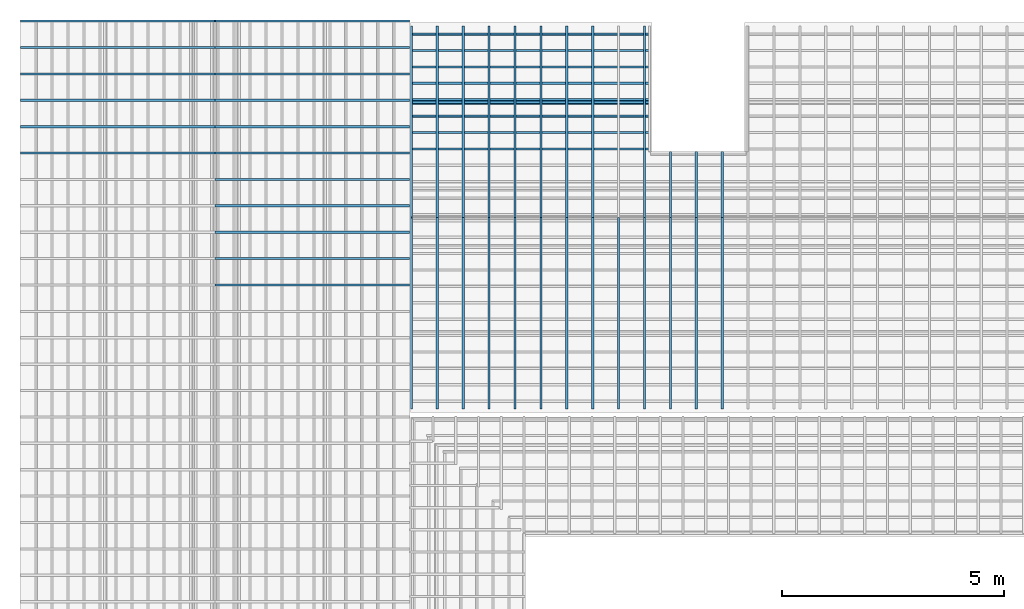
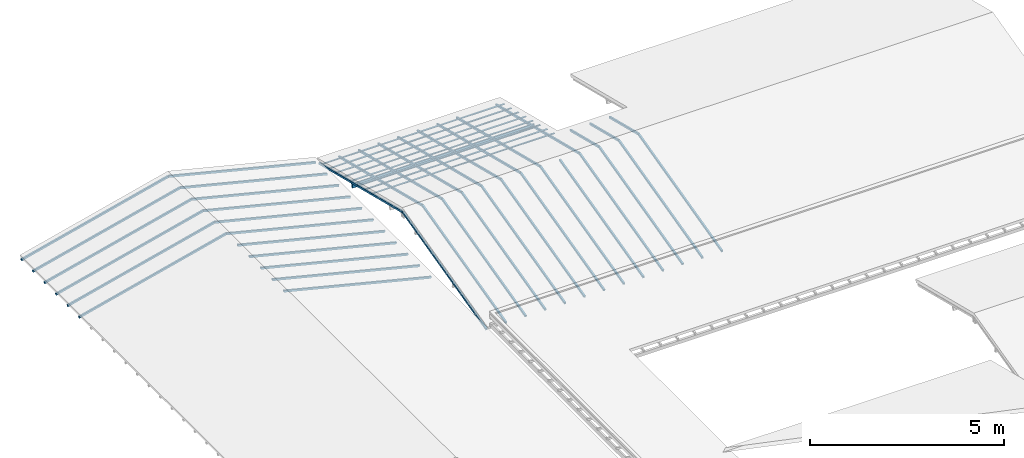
# One storey, part 5 of 10: 51 members, 4 elements without a shape of their own.
"""IFC2X3 building model written with IfcOpenShell, lengths in metres."""

from ifc_helpers import new_model, entity, si_unit, converted_unit, derived_unit, direction, frame, frame_2d, origin, origin_2d_with_axis, place, context, subcontext, project, spatial, rectangle, extrude, clip, halfspace, source, transform, mapped, material, type_object, type_shapes, element, aggregate, save


model = new_model("IFC2X3")

# Units and contexts
model_context = context("Model", 3, precision=1e-05, world=origin(), true_north=direction((6.12303176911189e-17, 1.0)))
body_context = subcontext(model_context, "Body", "Model", "MODEL_VIEW")
ifc_project = project(units=[si_unit("LENGTHUNIT", "METRE"), si_unit("AREAUNIT", "SQUARE_METRE"), si_unit("VOLUMEUNIT", "CUBIC_METRE"), converted_unit("PLANEANGLEUNIT", "DEGREE", entity("IfcRatioMeasure", 0.0174532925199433), si_unit("PLANEANGLEUNIT", "RADIAN"), dimensions=[0, 0, 0, 0, 0, 0, 0]), si_unit("MASSUNIT", "GRAM", prefix="KILO"), derived_unit("MASSDENSITYUNIT", [(si_unit("MASSUNIT", "GRAM", prefix="KILO"), 1), (si_unit("LENGTHUNIT", "METRE"), -3)]), si_unit("TIMEUNIT", "SECOND"), si_unit("FREQUENCYUNIT", "HERTZ"), si_unit("THERMODYNAMICTEMPERATUREUNIT", "DEGREE_CELSIUS"), derived_unit("THERMALTRANSMITTANCEUNIT", [(si_unit("MASSUNIT", "GRAM", prefix="KILO"), 1), (si_unit("THERMODYNAMICTEMPERATUREUNIT", "KELVIN"), -1), (si_unit("TIMEUNIT", "SECOND"), -3)]), derived_unit("VOLUMETRICFLOWRATEUNIT", [(si_unit("LENGTHUNIT", "METRE"), 3), (si_unit("TIMEUNIT", "SECOND"), -1)]), si_unit("ELECTRICCURRENTUNIT", "AMPERE"), si_unit("ELECTRICVOLTAGEUNIT", "VOLT"), si_unit("POWERUNIT", "WATT"), si_unit("FORCEUNIT", "NEWTON", prefix="KILO"), si_unit("ILLUMINANCEUNIT", "LUX"), si_unit("LUMINOUSFLUXUNIT", "LUMEN"), si_unit("LUMINOUSINTENSITYUNIT", "CANDELA"), derived_unit("USERDEFINED", [(si_unit("MASSUNIT", "GRAM", prefix="KILO"), -1), (si_unit("LENGTHUNIT", "METRE"), -2), (si_unit("TIMEUNIT", "SECOND"), 3), (si_unit("LUMINOUSFLUXUNIT", "LUMEN"), 1)]), derived_unit("LINEARVELOCITYUNIT", [(si_unit("LENGTHUNIT", "METRE"), 1), (si_unit("TIMEUNIT", "SECOND"), -1)]), si_unit("PRESSUREUNIT", "PASCAL"), derived_unit("USERDEFINED", [(si_unit("LENGTHUNIT", "METRE"), -2), (si_unit("MASSUNIT", "GRAM", prefix="KILO"), 1), (si_unit("TIMEUNIT", "SECOND"), -2)])], contexts=[model_context])

# Site, building, storey
site_placement = place(None, frame((26.9889013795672, -17.5624287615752, 0.0)))
site = spatial("IfcSite", under=ifc_project, at=site_placement, Name="Default", CompositionType="ELEMENT")
building_placement = place(site_placement, origin())
building = spatial("IfcBuilding", under=site, at=building_placement, Name="C. C. L. Monsenhor Antônio Sampaio", CompositionType="ELEMENT")
storey_placement = place(building_placement, frame((0.0, 0.0, 4.3)))
storey = spatial("IfcBuildingStorey", under=building, at=storey_placement, Name="COBERTURA BLOCO 01", CompositionType="ELEMENT", Elevation=4.3)

# Roof, members
curtain_wall_type_1 = type_object("IfcCurtainWallType", PredefinedType="NOTDEFINED")
roof_1_placement = place(storey_placement, frame((0.0, 0.0, -4.3)))
roof_1 = element("IfcRoof", 1, at=roof_1_placement, inside=storey, type_object=curtain_wall_type_1, ShapeType="NOTDEFINED")
ifc_material = material(Name=".Madeira")
member_type_1 = type_object("IfcMemberType", Name="Caibro", PredefinedType="MEMBER")
shared_shape_1 = source(origin(), body_context, "Body", "Clipping", [
    clip(extrude(rectangle(XDim=0.06, YDim=0.0499999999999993, at=origin_2d_with_axis()), frame((0.0, -0.03, -4.50666618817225), z_axis=(0.0, 0.0, 1.0), x_axis=(0.0, -1.0, 0.0)), (0.0, 0.0, 1.0), 4.52166618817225), halfspace(frame((-0.3048, 0.0, 0.0), z_axis=(0.0, 0.242535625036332, 0.970142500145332), x_axis=(0.0, 0.970142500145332, -0.242535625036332)), False)),
])
type_shapes(member_type_1, [shared_shape_1])
member_1_placement = place(storey_placement, frame((-10.2441903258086, -13.9322710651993, 1.22274577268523), z_axis=(-0.970142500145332, 0.0, 0.242535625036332), x_axis=(0.0, 1.0, 0.0)))
member_1 = element("IfcMember", 2, at=member_1_placement, type_object=member_type_1, material=ifc_material, Name="Rectangular Mullion:Caibro", ObjectType="Caibro", context=body_context, shape_type="MappedRepresentation", body=[
    mapped(shared_shape_1, transform((0.0, 0.0, 0.0), scale=1.0)),
])
member_2_placement = place(storey_placement, frame((-10.2441903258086, -13.3372331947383, 1.22274577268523), z_axis=(-0.970142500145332, 0.0, 0.242535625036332), x_axis=(0.0, 1.0, 0.0)))
member_2 = element("IfcMember", 3, at=member_2_placement, type_object=member_type_1, material=ifc_material, Name="Rectangular Mullion:Caibro", ObjectType="Caibro", context=body_context, shape_type="MappedRepresentation", body=[
    mapped(shared_shape_1, transform((0.0, 0.0, 0.0), scale=1.0)),
])
member_3_placement = place(storey_placement, frame((-10.2441903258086, -12.7421953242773, 1.22274577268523), z_axis=(-0.970142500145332, 0.0, 0.242535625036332), x_axis=(0.0, 1.0, 0.0)))
member_3 = element("IfcMember", 4, at=member_3_placement, type_object=member_type_1, material=ifc_material, Name="Rectangular Mullion:Caibro", ObjectType="Caibro", context=body_context, shape_type="MappedRepresentation", body=[
    mapped(shared_shape_1, transform((0.0, 0.0, 0.0), scale=1.0)),
])
member_4_placement = place(storey_placement, frame((-10.2441903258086, -12.1471574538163, 1.22274577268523), z_axis=(-0.970142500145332, 0.0, 0.242535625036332), x_axis=(0.0, 1.0, 0.0)))
member_4 = element("IfcMember", 5, at=member_4_placement, type_object=member_type_1, material=ifc_material, Name="Rectangular Mullion:Caibro", ObjectType="Caibro", context=body_context, shape_type="MappedRepresentation", body=[
    mapped(shared_shape_1, transform((0.0, 0.0, 0.0), scale=1.0)),
])
member_5_placement = place(storey_placement, frame((-10.2441903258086, -11.5521195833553, 1.22274577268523), z_axis=(-0.970142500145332, 0.0, 0.242535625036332), x_axis=(0.0, 1.0, 0.0)))
member_5 = element("IfcMember", 6, at=member_5_placement, type_object=member_type_1, material=ifc_material, Name="Rectangular Mullion:Caibro", ObjectType="Caibro", context=body_context, shape_type="MappedRepresentation", body=[
    mapped(shared_shape_1, transform((0.0, 0.0, 0.0), scale=1.0)),
])
member_6_placement = place(storey_placement, frame((-10.2441903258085, -10.9570817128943, 1.22274577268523), z_axis=(-0.970142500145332, 0.0, 0.242535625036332), x_axis=(0.0, 1.0, 0.0)))
member_6 = element("IfcMember", 7, at=member_6_placement, type_object=member_type_1, material=ifc_material, Name="Rectangular Mullion:Caibro", ObjectType="Caibro", context=body_context, shape_type="MappedRepresentation", body=[
    mapped(shared_shape_1, transform((0.0, 0.0, 0.0), scale=1.0)),
])
member_7_placement = place(storey_placement, frame((-10.2441903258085, -10.3620438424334, 1.22274577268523), z_axis=(-0.970142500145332, 0.0, 0.242535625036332), x_axis=(0.0, 1.0, 0.0)))
member_7 = element("IfcMember", 8, at=member_7_placement, type_object=member_type_1, material=ifc_material, Name="Rectangular Mullion:Caibro", ObjectType="Caibro", context=body_context, shape_type="MappedRepresentation", body=[
    mapped(shared_shape_1, transform((0.0, 0.0, 0.0), scale=1.0)),
])
member_8_placement = place(storey_placement, frame((-10.2441903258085, -9.76700597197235, 1.22274577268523), z_axis=(-0.970142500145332, 0.0, 0.242535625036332), x_axis=(0.0, 1.0, 0.0)))
member_8 = element("IfcMember", 9, at=member_8_placement, type_object=member_type_1, material=ifc_material, Name="Rectangular Mullion:Caibro", ObjectType="Caibro", context=body_context, shape_type="MappedRepresentation", body=[
    mapped(shared_shape_1, transform((0.0, 0.0, 0.0), scale=1.0)),
])
member_9_placement = place(storey_placement, frame((-10.2441903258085, -9.17196810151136, 1.22274577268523), z_axis=(-0.970142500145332, 0.0, 0.242535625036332), x_axis=(0.0, 1.0, 0.0)))
member_9 = element("IfcMember", 10, at=member_9_placement, type_object=member_type_1, material=ifc_material, Name="Rectangular Mullion:Caibro", ObjectType="Caibro", context=body_context, shape_type="MappedRepresentation", body=[
    mapped(shared_shape_1, transform((0.0, 0.0, 0.0), scale=1.0)),
])
member_10_placement = place(storey_placement, frame((-10.2441903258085, -8.57693023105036, 1.22274577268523), z_axis=(-0.970142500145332, 0.0, 0.242535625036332), x_axis=(0.0, 1.0, 0.0)))
member_10 = element("IfcMember", 11, at=member_10_placement, type_object=member_type_1, material=ifc_material, Name="Rectangular Mullion:Caibro", ObjectType="Caibro", context=body_context, shape_type="MappedRepresentation", body=[
    mapped(shared_shape_1, transform((0.0, 0.0, 0.0), scale=1.0)),
])
member_11_placement = place(storey_placement, frame((-10.2441903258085, -8.57693023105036, 1.22274577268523), z_axis=(0.970142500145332, 0.0, 0.242535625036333), x_axis=(0.0, -1.0, 0.0)))
member_11 = element("IfcMember", 12, at=member_11_placement, type_object=member_type_1, material=ifc_material, Name="Rectangular Mullion:Caibro", ObjectType="Caibro", context=body_context, shape_type="MappedRepresentation", body=[
    mapped(shared_shape_1, transform((0.0, 0.0, 0.0), scale=1.0)),
])
member_12_placement = place(storey_placement, frame((-10.2441903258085, -9.17196810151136, 1.22274577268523), z_axis=(0.970142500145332, 0.0, 0.242535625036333), x_axis=(0.0, -1.0, 0.0)))
member_12 = element("IfcMember", 13, at=member_12_placement, type_object=member_type_1, material=ifc_material, Name="Rectangular Mullion:Caibro", ObjectType="Caibro", context=body_context, shape_type="MappedRepresentation", body=[
    mapped(shared_shape_1, transform((0.0, 0.0, 0.0), scale=1.0)),
])
member_13_placement = place(storey_placement, frame((-10.2441903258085, -9.76700597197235, 1.22274577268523), z_axis=(0.970142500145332, 0.0, 0.242535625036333), x_axis=(0.0, -1.0, 0.0)))
member_13 = element("IfcMember", 14, at=member_13_placement, type_object=member_type_1, material=ifc_material, Name="Rectangular Mullion:Caibro", ObjectType="Caibro", context=body_context, shape_type="MappedRepresentation", body=[
    mapped(shared_shape_1, transform((0.0, 0.0, 0.0), scale=1.0)),
])
member_14_placement = place(storey_placement, frame((-10.2441903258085, -10.3620438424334, 1.22274577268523), z_axis=(0.970142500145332, 0.0, 0.242535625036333), x_axis=(0.0, -1.0, 0.0)))
member_14 = element("IfcMember", 15, at=member_14_placement, type_object=member_type_1, material=ifc_material, Name="Rectangular Mullion:Caibro", ObjectType="Caibro", context=body_context, shape_type="MappedRepresentation", body=[
    mapped(shared_shape_1, transform((0.0, 0.0, 0.0), scale=1.0)),
])
member_15_placement = place(storey_placement, frame((-10.2441903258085, -10.9570817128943, 1.22274577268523), z_axis=(0.970142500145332, 0.0, 0.242535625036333), x_axis=(0.0, -1.0, 0.0)))
member_15 = element("IfcMember", 16, at=member_15_placement, type_object=member_type_1, material=ifc_material, Name="Rectangular Mullion:Caibro", ObjectType="Caibro", context=body_context, shape_type="MappedRepresentation", body=[
    mapped(shared_shape_1, transform((0.0, 0.0, 0.0), scale=1.0)),
])
member_type_2 = type_object("IfcMemberType", Name="Caibro", PredefinedType="MEMBER")
shared_shape_2 = source(origin(), body_context, "Body", "SweptSolid", [
    extrude(rectangle(XDim=0.06, YDim=0.0499999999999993, at=origin_2d_with_axis()), frame((-0.0249999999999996, -0.03, -4.50666618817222), z_axis=(0.0, 0.0, 1.0), x_axis=(0.0, -1.0, 0.0)), (0.0, 0.0, 1.0), 4.50666618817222),
])
type_shapes(member_type_2, [shared_shape_2])
member_16_placement = place(storey_placement, frame((-14.6162987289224, -7.95689236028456, 0.12971867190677), z_axis=(-0.970142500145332, 0.0, -0.242535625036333), x_axis=(0.0, 1.0, 0.0)))
member_16 = element("IfcMember", 17, at=member_16_placement, type_object=member_type_2, material=ifc_material, Name="Rectangular Mullion:Caibro", ObjectType="Caibro", context=body_context, shape_type="MappedRepresentation", body=[
    mapped(shared_shape_2, transform((0.0, 0.0, 0.0), scale=1.0)),
])
member_type_3 = type_object("IfcMemberType", Name="Caibro", PredefinedType="MEMBER")
shared_shape_3 = source(origin(), body_context, "Body", "SweptSolid", [
    extrude(rectangle(XDim=0.06, YDim=0.0499999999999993, at=origin_2d_with_axis()), frame((-0.0249999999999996, -0.03, -4.50666618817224), z_axis=(0.0, 0.0, 1.0), x_axis=(0.0, -1.0, 0.0)), (0.0, 0.0, 1.0), 4.50666618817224),
])
type_shapes(member_type_3, [shared_shape_3])
member_17_placement = place(storey_placement, frame((-10.2441903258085, -7.95689236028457, 1.22274577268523), z_axis=(-0.970142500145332, 0.0, 0.242535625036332), x_axis=(0.0, 1.0, 0.0)))
member_17 = element("IfcMember", 18, at=member_17_placement, type_object=member_type_3, material=ifc_material, Name="Rectangular Mullion:Caibro", ObjectType="Caibro", context=body_context, shape_type="MappedRepresentation", body=[
    mapped(shared_shape_3, transform((0.0, 0.0, 0.0), scale=1.0)),
])
aggregate(roof_1, [member_1, member_2, member_3, member_4, member_5, member_6, member_7, member_8, member_9, member_10, member_17, member_11, member_12, member_13, member_14, member_15, member_16])

curtain_wall_type_2 = type_object("IfcCurtainWallType", PredefinedType="NOTDEFINED")
roof_2_placement = place(storey_placement, frame((0.0, 0.0, -4.3)))
roof_2 = element("IfcRoof", 19, at=roof_2_placement, inside=storey, type_object=curtain_wall_type_2, ShapeType="NOTDEFINED")
member_type_4 = type_object("IfcMemberType", Name="Ripa", PredefinedType="MEMBER")
shared_shape_4 = source(origin(), body_context, "Body", "SweptSolid", [
    extrude(rectangle(XDim=0.015, YDim=0.05, at=frame_2d((-1.69135538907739e-17, 0.0), x_axis=(1.0, 0.0))), frame((0.025, -0.1875, -5.42000000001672), z_axis=(0.0, 0.0, 1.0), x_axis=(0.0, -1.0, 0.0)), (0.0, 0.0, 1.0), 5.42000000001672),
])
type_shapes(member_type_4, [shared_shape_4])
member_18_placement = place(storey_placement, frame((-0.42055229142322, -8.29708985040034, 0.0821611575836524), z_axis=(1.0, 0.0, 0.0), x_axis=(0.0, -0.970142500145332, 0.242535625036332)))
member_18 = element("IfcMember", 20, at=member_18_placement, type_object=member_type_4, material=ifc_material, Name="Rectangular Mullion:Ripa", ObjectType="Ripa", context=body_context, shape_type="MappedRepresentation", body=[
    mapped(shared_shape_4, transform((0.0, 0.0, 0.0), scale=1.0)),
])
member_19_placement = place(storey_placement, frame((-0.42055229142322, -8.66685979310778, 0.174603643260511), z_axis=(1.0, 0.0, 0.0), x_axis=(0.0, -0.970142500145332, 0.242535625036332)))
member_19 = element("IfcMember", 21, at=member_19_placement, type_object=member_type_4, material=ifc_material, Name="Rectangular Mullion:Ripa", ObjectType="Ripa", context=body_context, shape_type="MappedRepresentation", body=[
    mapped(shared_shape_4, transform((0.0, 0.0, 0.0), scale=1.0)),
])
member_20_placement = place(storey_placement, frame((-0.420552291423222, -9.03662973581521, 0.267046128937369), z_axis=(1.0, 0.0, 0.0), x_axis=(0.0, -0.970142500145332, 0.242535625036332)))
member_20 = element("IfcMember", 22, at=member_20_placement, type_object=member_type_4, material=ifc_material, Name="Rectangular Mullion:Ripa", ObjectType="Ripa", context=body_context, shape_type="MappedRepresentation", body=[
    mapped(shared_shape_4, transform((0.0, 0.0, 0.0), scale=1.0)),
])
member_21_placement = place(storey_placement, frame((-0.420552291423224, -9.40639967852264, 0.359488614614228), z_axis=(1.0, 0.0, 0.0), x_axis=(0.0, -0.970142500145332, 0.242535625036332)))
member_21 = element("IfcMember", 23, at=member_21_placement, type_object=member_type_4, material=ifc_material, Name="Rectangular Mullion:Ripa", ObjectType="Ripa", context=body_context, shape_type="MappedRepresentation", body=[
    mapped(shared_shape_4, transform((0.0, 0.0, 0.0), scale=1.0)),
])
member_22_placement = place(storey_placement, frame((-0.420552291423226, -9.77616962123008, 0.451931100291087), z_axis=(1.0, 0.0, 0.0), x_axis=(0.0, -0.970142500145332, 0.242535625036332)))
member_22 = element("IfcMember", 24, at=member_22_placement, type_object=member_type_4, material=ifc_material, Name="Rectangular Mullion:Ripa", ObjectType="Ripa", context=body_context, shape_type="MappedRepresentation", body=[
    mapped(shared_shape_4, transform((0.0, 0.0, 0.0), scale=1.0)),
])
member_23_placement = place(storey_placement, frame((-0.420552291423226, -10.1459395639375, 0.544373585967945), z_axis=(1.0, 0.0, 0.0), x_axis=(0.0, -0.970142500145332, 0.242535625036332)))
member_23 = element("IfcMember", 25, at=member_23_placement, type_object=member_type_4, material=ifc_material, Name="Rectangular Mullion:Ripa", ObjectType="Ripa", context=body_context, shape_type="MappedRepresentation", body=[
    mapped(shared_shape_4, transform((0.0, 0.0, 0.0), scale=1.0)),
])
member_24_placement = place(storey_placement, frame((-0.420552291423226, -10.5157095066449, 0.636816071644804), z_axis=(1.0, 0.0, 0.0), x_axis=(0.0, -0.970142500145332, 0.242535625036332)))
member_24 = element("IfcMember", 26, at=member_24_placement, type_object=member_type_4, material=ifc_material, Name="Rectangular Mullion:Ripa", ObjectType="Ripa", context=body_context, shape_type="MappedRepresentation", body=[
    mapped(shared_shape_4, transform((0.0, 0.0, 0.0), scale=1.0)),
])
member_25_placement = place(storey_placement, frame((-0.420552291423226, -10.8854794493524, 0.729258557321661), z_axis=(1.0, 0.0, 0.0), x_axis=(0.0, -0.970142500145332, 0.242535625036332)))
member_25 = element("IfcMember", 27, at=member_25_placement, type_object=member_type_4, material=ifc_material, Name="Rectangular Mullion:Ripa", ObjectType="Ripa", context=body_context, shape_type="MappedRepresentation", body=[
    mapped(shared_shape_4, transform((0.0, 0.0, 0.0), scale=1.0)),
])
aggregate(roof_2, [member_18, member_19, member_20, member_21, member_22, member_23, member_24, member_25])

# Roof, member
curtain_wall_type_3 = type_object("IfcCurtainWallType", PredefinedType="NOTDEFINED")
roof_3_placement = place(storey_placement, frame((0.0, 0.0, -4.3)))
roof_3 = element("IfcRoof", 28, at=roof_3_placement, inside=storey, type_object=curtain_wall_type_3, ShapeType="NOTDEFINED")
member_type_5 = type_object("IfcMemberType", Name="Terça", PredefinedType="MEMBER")
shared_shape_5 = source(origin(), body_context, "Body", "SweptSolid", [
    extrude(rectangle(XDim=0.12, YDim=0.0599999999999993, at=origin_2d_with_axis()), frame((0.0, -0.06, -5.42000000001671), z_axis=(0.0, 0.0, 1.0), x_axis=(0.0, -1.0, 0.0)), (0.0, 0.0, 1.0), 5.42000000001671),
])
type_shapes(member_type_5, [shared_shape_5])
member_26_placement = place(storey_placement, frame((-0.420552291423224, -9.83850063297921, 0.468186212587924), z_axis=(1.0, 0.0, 0.0), x_axis=(0.0, -0.970142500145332, 0.242535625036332)))
member_26 = element("IfcMember", 29, at=member_26_placement, type_object=member_type_5, material=ifc_material, Name="Rectangular Mullion:Terça", ObjectType="Terça", context=body_context, shape_type="MappedRepresentation", body=[
    mapped(shared_shape_5, transform((0.0, 0.0, 0.0), scale=1.0)),
])
aggregate(roof_3, [member_26])

# Roof, members
roof_4_placement = place(storey_placement, frame((0.0, 0.0, -4.3)))
roof_4 = element("IfcRoof", 30, at=roof_4_placement, inside=storey, type_object=curtain_wall_type_1, ShapeType="NOTDEFINED")
member_type_6 = type_object("IfcMemberType", Name="Caibro", PredefinedType="MEMBER")
shared_shape_6 = source(origin(), body_context, "Body", "SweptSolid", [
    extrude(rectangle(XDim=0.06, YDim=0.0499999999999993, at=origin_2d_with_axis()), frame((-0.0249999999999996, -0.03, -4.43310795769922), z_axis=(0.0, 0.0, 1.0), x_axis=(0.0, -1.0, 0.0)), (0.0, 0.0, 1.0), 4.43310795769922),
])
type_shapes(member_type_6, [shared_shape_6])
member_27_placement = place(storey_placement, frame((-5.84055229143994, -16.7113127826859, 0.160968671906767), z_axis=(0.0, -0.970142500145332, -0.242535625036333), x_axis=(-1.0, 0.0, 0.0)))
member_27 = element("IfcMember", 31, at=member_27_placement, type_object=member_type_6, material=ifc_material, Name="Rectangular Mullion:Caibro", ObjectType="Caibro", context=body_context, shape_type="MappedRepresentation", body=[
    mapped(shared_shape_6, transform((0.0, 0.0, 0.0), scale=1.0)),
])
member_type_7 = type_object("IfcMemberType", Name="Caibro", PredefinedType="MEMBER")
shared_shape_7 = source(origin(), body_context, "Body", "SweptSolid", [
    extrude(rectangle(XDim=0.06, YDim=0.0499999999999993, at=origin_2d_with_axis()), frame((-0.0249999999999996, -0.03, -4.43310795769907), z_axis=(0.0, 0.0, 1.0), x_axis=(0.0, -1.0, 0.0)), (0.0, 0.0, 1.0), 4.43310795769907),
])
type_shapes(member_type_7, [shared_shape_7])
member_28_placement = place(storey_placement, frame((-5.84055229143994, -12.4105663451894, 1.23615528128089), z_axis=(0.0, -0.970142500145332, 0.242535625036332), x_axis=(-1.0, 0.0, 0.0)))
member_28 = element("IfcMember", 32, at=member_28_placement, type_object=member_type_7, material=ifc_material, Name="Rectangular Mullion:Caibro", ObjectType="Caibro", context=body_context, shape_type="MappedRepresentation", body=[
    mapped(shared_shape_7, transform((0.0, 0.0, 0.0), scale=1.0)),
])
member_type_8 = type_object("IfcMemberType", Name="Caibro", PredefinedType="MEMBER")
shared_shape_8 = source(origin(), body_context, "Body", "Clipping", [
    clip(extrude(rectangle(XDim=0.06, YDim=0.0499999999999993, at=origin_2d_with_axis()), frame((0.0, -0.03, -4.43310795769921), z_axis=(0.0, 0.0, 1.0), x_axis=(0.0, -1.0, 0.0)), (0.0, 0.0, 1.0), 4.44810795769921), halfspace(frame((-0.3048, 0.0, 0.0), z_axis=(0.0, 0.242535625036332, 0.970142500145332), x_axis=(0.0, 0.970142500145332, -0.242535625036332)), False)),
])
type_shapes(member_type_8, [shared_shape_8])
member_29_placement = place(storey_placement, frame((-5.231552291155, -12.4105663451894, 1.23615528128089), z_axis=(0.0, 0.970142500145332, 0.242535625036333), x_axis=(1.0, 0.0, 0.0)))
member_29 = element("IfcMember", 33, at=member_29_placement, type_object=member_type_8, material=ifc_material, Name="Rectangular Mullion:Caibro", ObjectType="Caibro", context=body_context, shape_type="MappedRepresentation", body=[
    mapped(shared_shape_8, transform((0.0, 0.0, 0.0), scale=1.0)),
])
member_30_placement = place(storey_placement, frame((-4.64755229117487, -12.4105663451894, 1.23615528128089), z_axis=(0.0, 0.970142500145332, 0.242535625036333), x_axis=(1.0, 0.0, 0.0)))
member_30 = element("IfcMember", 34, at=member_30_placement, type_object=member_type_8, material=ifc_material, Name="Rectangular Mullion:Caibro", ObjectType="Caibro", context=body_context, shape_type="MappedRepresentation", body=[
    mapped(shared_shape_8, transform((0.0, 0.0, 0.0), scale=1.0)),
])
member_31_placement = place(storey_placement, frame((-4.06355229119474, -12.4105663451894, 1.23615528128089), z_axis=(0.0, 0.970142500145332, 0.242535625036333), x_axis=(1.0, 0.0, 0.0)))
member_31 = element("IfcMember", 35, at=member_31_placement, type_object=member_type_8, material=ifc_material, Name="Rectangular Mullion:Caibro", ObjectType="Caibro", context=body_context, shape_type="MappedRepresentation", body=[
    mapped(shared_shape_8, transform((0.0, 0.0, 0.0), scale=1.0)),
])
member_32_placement = place(storey_placement, frame((-3.47955229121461, -12.4105663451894, 1.23615528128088), z_axis=(0.0, 0.970142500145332, 0.242535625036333), x_axis=(1.0, 0.0, 0.0)))
member_32 = element("IfcMember", 36, at=member_32_placement, type_object=member_type_8, material=ifc_material, Name="Rectangular Mullion:Caibro", ObjectType="Caibro", context=body_context, shape_type="MappedRepresentation", body=[
    mapped(shared_shape_8, transform((0.0, 0.0, 0.0), scale=1.0)),
])
member_33_placement = place(storey_placement, frame((-2.89555229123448, -12.4105663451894, 1.23615528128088), z_axis=(0.0, 0.970142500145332, 0.242535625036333), x_axis=(1.0, 0.0, 0.0)))
member_33 = element("IfcMember", 37, at=member_33_placement, type_object=member_type_8, material=ifc_material, Name="Rectangular Mullion:Caibro", ObjectType="Caibro", context=body_context, shape_type="MappedRepresentation", body=[
    mapped(shared_shape_8, transform((0.0, 0.0, 0.0), scale=1.0)),
])
member_34_placement = place(storey_placement, frame((-2.31155229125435, -12.4105663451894, 1.23615528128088), z_axis=(0.0, 0.970142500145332, 0.242535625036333), x_axis=(1.0, 0.0, 0.0)))
member_34 = element("IfcMember", 38, at=member_34_placement, type_object=member_type_8, material=ifc_material, Name="Rectangular Mullion:Caibro", ObjectType="Caibro", context=body_context, shape_type="MappedRepresentation", body=[
    mapped(shared_shape_8, transform((0.0, 0.0, 0.0), scale=1.0)),
])
member_35_placement = place(storey_placement, frame((-1.72755229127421, -12.4105663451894, 1.23615528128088), z_axis=(0.0, 0.970142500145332, 0.242535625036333), x_axis=(1.0, 0.0, 0.0)))
member_35 = element("IfcMember", 39, at=member_35_placement, type_object=member_type_8, material=ifc_material, Name="Rectangular Mullion:Caibro", ObjectType="Caibro", context=body_context, shape_type="MappedRepresentation", body=[
    mapped(shared_shape_8, transform((0.0, 0.0, 0.0), scale=1.0)),
])
member_36_placement = place(storey_placement, frame((-1.14355229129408, -12.4105663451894, 1.23615528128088), z_axis=(0.0, 0.970142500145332, 0.242535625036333), x_axis=(1.0, 0.0, 0.0)))
member_36 = element("IfcMember", 40, at=member_36_placement, type_object=member_type_8, material=ifc_material, Name="Rectangular Mullion:Caibro", ObjectType="Caibro", context=body_context, shape_type="MappedRepresentation", body=[
    mapped(shared_shape_8, transform((0.0, 0.0, 0.0), scale=1.0)),
])
member_37_placement = place(storey_placement, frame((-0.55955229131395, -12.4105663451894, 1.23615528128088), z_axis=(0.0, 0.970142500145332, 0.242535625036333), x_axis=(1.0, 0.0, 0.0)))
member_37 = element("IfcMember", 41, at=member_37_placement, type_object=member_type_8, material=ifc_material, Name="Rectangular Mullion:Caibro", ObjectType="Caibro", context=body_context, shape_type="MappedRepresentation", body=[
    mapped(shared_shape_8, transform((0.0, 0.0, 0.0), scale=1.0)),
])
member_38_placement = place(storey_placement, frame((-0.55955229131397, -12.4105663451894, 1.23615528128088), z_axis=(0.0, -0.970142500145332, 0.242535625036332), x_axis=(-1.0, 0.0, 0.0)))
member_38 = element("IfcMember", 42, at=member_38_placement, type_object=member_type_8, material=ifc_material, Name="Rectangular Mullion:Caibro", ObjectType="Caibro", context=body_context, shape_type="MappedRepresentation", body=[
    mapped(shared_shape_8, transform((0.0, 0.0, 0.0), scale=1.0)),
])
member_39_placement = place(storey_placement, frame((-1.72755229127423, -12.4105663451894, 1.23615528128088), z_axis=(0.0, -0.970142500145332, 0.242535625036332), x_axis=(-1.0, 0.0, 0.0)))
member_39 = element("IfcMember", 43, at=member_39_placement, type_object=member_type_8, material=ifc_material, Name="Rectangular Mullion:Caibro", ObjectType="Caibro", context=body_context, shape_type="MappedRepresentation", body=[
    mapped(shared_shape_8, transform((0.0, 0.0, 0.0), scale=1.0)),
])
member_40_placement = place(storey_placement, frame((-2.31155229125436, -12.4105663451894, 1.23615528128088), z_axis=(0.0, -0.970142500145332, 0.242535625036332), x_axis=(-1.0, 0.0, 0.0)))
member_40 = element("IfcMember", 44, at=member_40_placement, type_object=member_type_8, material=ifc_material, Name="Rectangular Mullion:Caibro", ObjectType="Caibro", context=body_context, shape_type="MappedRepresentation", body=[
    mapped(shared_shape_8, transform((0.0, 0.0, 0.0), scale=1.0)),
])
member_41_placement = place(storey_placement, frame((-2.89555229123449, -12.4105663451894, 1.23615528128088), z_axis=(0.0, -0.970142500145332, 0.242535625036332), x_axis=(-1.0, 0.0, 0.0)))
member_41 = element("IfcMember", 45, at=member_41_placement, type_object=member_type_8, material=ifc_material, Name="Rectangular Mullion:Caibro", ObjectType="Caibro", context=body_context, shape_type="MappedRepresentation", body=[
    mapped(shared_shape_8, transform((0.0, 0.0, 0.0), scale=1.0)),
])
member_42_placement = place(storey_placement, frame((-3.47955229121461, -12.4105663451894, 1.23615528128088), z_axis=(0.0, -0.970142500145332, 0.242535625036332), x_axis=(-1.0, 0.0, 0.0)))
member_42 = element("IfcMember", 46, at=member_42_placement, type_object=member_type_8, material=ifc_material, Name="Rectangular Mullion:Caibro", ObjectType="Caibro", context=body_context, shape_type="MappedRepresentation", body=[
    mapped(shared_shape_8, transform((0.0, 0.0, 0.0), scale=1.0)),
])
member_43_placement = place(storey_placement, frame((-4.06355229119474, -12.4105663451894, 1.23615528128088), z_axis=(0.0, -0.970142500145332, 0.242535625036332), x_axis=(-1.0, 0.0, 0.0)))
member_43 = element("IfcMember", 47, at=member_43_placement, type_object=member_type_8, material=ifc_material, Name="Rectangular Mullion:Caibro", ObjectType="Caibro", context=body_context, shape_type="MappedRepresentation", body=[
    mapped(shared_shape_8, transform((0.0, 0.0, 0.0), scale=1.0)),
])
member_44_placement = place(storey_placement, frame((-4.64755229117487, -12.4105663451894, 1.23615528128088), z_axis=(0.0, -0.970142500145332, 0.242535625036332), x_axis=(-1.0, 0.0, 0.0)))
member_44 = element("IfcMember", 48, at=member_44_placement, type_object=member_type_8, material=ifc_material, Name="Rectangular Mullion:Caibro", ObjectType="Caibro", context=body_context, shape_type="MappedRepresentation", body=[
    mapped(shared_shape_8, transform((0.0, 0.0, 0.0), scale=1.0)),
])
member_45_placement = place(storey_placement, frame((-5.231552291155, -12.4105663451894, 1.23615528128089), z_axis=(0.0, -0.970142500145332, 0.242535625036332), x_axis=(-1.0, 0.0, 0.0)))
member_45 = element("IfcMember", 49, at=member_45_placement, type_object=member_type_8, material=ifc_material, Name="Rectangular Mullion:Caibro", ObjectType="Caibro", context=body_context, shape_type="MappedRepresentation", body=[
    mapped(shared_shape_8, transform((0.0, 0.0, 0.0), scale=1.0)),
])
member_type_9 = type_object("IfcMemberType", Name="Caibro", PredefinedType="MEMBER")
shared_shape_9 = source(origin(), body_context, "Body", "Clipping", [
    clip(extrude(rectangle(XDim=0.06, YDim=0.0499999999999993, at=origin_2d_with_axis()), frame((0.0, -0.03, -4.43310795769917), z_axis=(0.0, 0.0, 1.0), x_axis=(0.0, -1.0, 0.0)), (0.0, 0.0, 1.0), 4.44810795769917), halfspace(frame((-0.3048, 0.0, 0.0), z_axis=(0.0, 0.242535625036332, 0.970142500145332), x_axis=(0.0, 0.970142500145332, -0.242535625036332)), False)),
])
type_shapes(member_type_9, [shared_shape_9])
member_46_placement = place(storey_placement, frame((0.0244477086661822, -12.4105663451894, 1.23615528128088), z_axis=(0.0, 0.970142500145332, 0.242535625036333), x_axis=(1.0, 0.0, 0.0)))
member_46 = element("IfcMember", 50, at=member_46_placement, type_object=member_type_9, material=ifc_material, Name="Rectangular Mullion:Caibro", ObjectType="Caibro", context=body_context, shape_type="MappedRepresentation", body=[
    mapped(shared_shape_9, transform((0.0, 0.0, 0.0), scale=1.0)),
])
member_47_placement = place(storey_placement, frame((0.608447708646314, -12.4105663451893, 1.23615528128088), z_axis=(0.0, 0.970142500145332, 0.242535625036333), x_axis=(1.0, 0.0, 0.0)))
member_47 = element("IfcMember", 51, at=member_47_placement, type_object=member_type_9, material=ifc_material, Name="Rectangular Mullion:Caibro", ObjectType="Caibro", context=body_context, shape_type="MappedRepresentation", body=[
    mapped(shared_shape_9, transform((0.0, 0.0, 0.0), scale=1.0)),
])
member_48_placement = place(storey_placement, frame((1.19244770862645, -12.4105663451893, 1.23615528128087), z_axis=(0.0, 0.970142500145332, 0.242535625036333), x_axis=(1.0, 0.0, 0.0)))
member_48 = element("IfcMember", 52, at=member_48_placement, type_object=member_type_9, material=ifc_material, Name="Rectangular Mullion:Caibro", ObjectType="Caibro", context=body_context, shape_type="MappedRepresentation", body=[
    mapped(shared_shape_9, transform((0.0, 0.0, 0.0), scale=1.0)),
])
member_type_10 = type_object("IfcMemberType", Name="Caibro", PredefinedType="MEMBER")
shared_shape_10 = source(origin(), body_context, "Body", "Clipping", [
    clip(extrude(rectangle(XDim=0.06, YDim=0.0499999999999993, at=origin_2d_with_axis()), frame((0.0, -0.03, -1.52039519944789), z_axis=(0.0, 0.0, 1.0), x_axis=(0.0, -1.0, 0.0)), (0.0, 0.0, 1.0), 1.53539519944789), halfspace(frame((-0.3048, 0.0, 0.0), z_axis=(0.0, 0.242535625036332, 0.970142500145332), x_axis=(0.0, 0.970142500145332, -0.242535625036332)), False)),
])
type_shapes(member_type_10, [shared_shape_10])
member_49_placement = place(storey_placement, frame((1.19244770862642, -12.4105663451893, 1.23615528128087), z_axis=(0.0, -0.970142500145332, 0.242535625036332), x_axis=(-1.0, 0.0, 0.0)))
member_49 = element("IfcMember", 53, at=member_49_placement, type_object=member_type_10, material=ifc_material, Name="Rectangular Mullion:Caibro", ObjectType="Caibro", context=body_context, shape_type="MappedRepresentation", body=[
    mapped(shared_shape_10, transform((0.0, 0.0, 0.0), scale=1.0)),
])
member_50_placement = place(storey_placement, frame((0.608447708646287, -12.4105663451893, 1.23615528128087), z_axis=(0.0, -0.970142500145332, 0.242535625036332), x_axis=(-1.0, 0.0, 0.0)))
member_50 = element("IfcMember", 54, at=member_50_placement, type_object=member_type_10, material=ifc_material, Name="Rectangular Mullion:Caibro", ObjectType="Caibro", context=body_context, shape_type="MappedRepresentation", body=[
    mapped(shared_shape_10, transform((0.0, 0.0, 0.0), scale=1.0)),
])
member_51_placement = place(storey_placement, frame((0.0244477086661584, -12.4105663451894, 1.23615528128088), z_axis=(0.0, -0.970142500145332, 0.242535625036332), x_axis=(-1.0, 0.0, 0.0)))
member_51 = element("IfcMember", 55, at=member_51_placement, type_object=member_type_10, material=ifc_material, Name="Rectangular Mullion:Caibro", ObjectType="Caibro", context=body_context, shape_type="MappedRepresentation", body=[
    mapped(shared_shape_10, transform((0.0, 0.0, 0.0), scale=1.0)),
])
aggregate(roof_4, [member_27, member_29, member_30, member_31, member_32, member_33, member_34, member_35, member_36, member_37, member_46, member_47, member_48, member_28, member_49, member_50, member_51, member_38, member_39, member_40, member_41, member_42, member_43, member_44, member_45])

save(model, "model.ifc")
